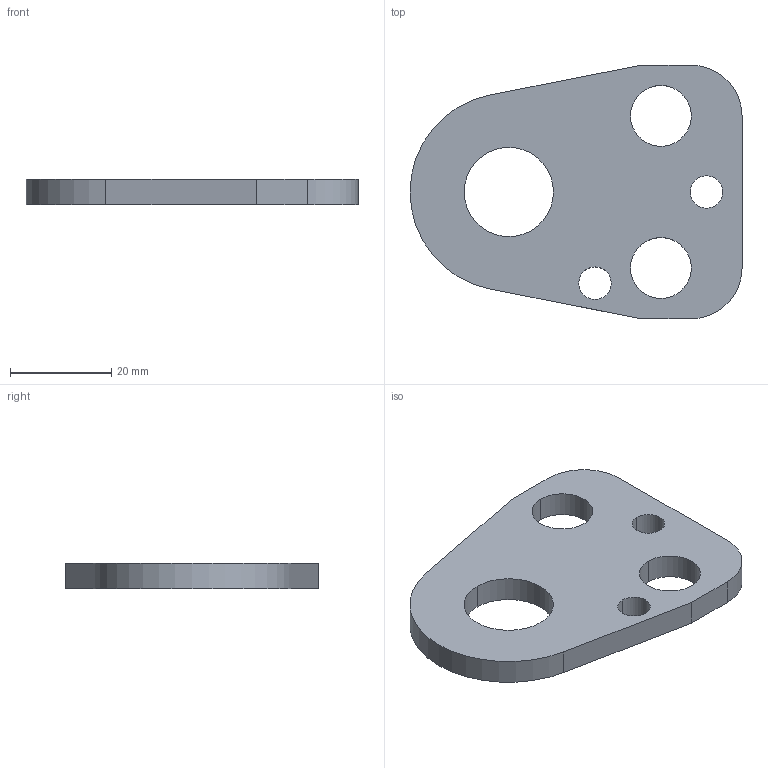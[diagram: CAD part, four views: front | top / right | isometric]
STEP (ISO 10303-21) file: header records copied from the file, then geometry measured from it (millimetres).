
FILE_DESCRIPTION(/* description */ (''),/* implementation_level */ '2;1');
FILE_NAME(/* name */ '3d_bdc25_03366_r00.stp',/* time_stamp */ '2011-01-10T14:17:24+09:00',/* author */ ('MISUMI'),/* organization */ (''),/* preprocessor_version */ 'ST-DEVELOPER v11',/* originating_system */ 'UGS - NX 5.0',/* authorisation */ '');
FILE_SCHEMA (('CONFIG_CONTROL_DESIGN'));
Length unit declared in the file: millimetre
Products named in the file (1): 3d_bdc25_03366_r00
Bounding box: 65.5 x 50 x 5 mm (x, y, z)
Volume: 10941.3 mm3; surface area: 6209.9 mm2
Topology: 1 solids, 1 shells, 20 faces, 54 edges, 36 vertices
Faces by surface type: cylinder 13, plane 7
Entity records: 750 total; most frequent: DIRECTION 122, CARTESIAN_POINT 111, ORIENTED_EDGE 108, EDGE_CURVE 54, AXIS2_PLACEMENT_3D 47, VERTEX_POINT 36, EDGE_LOOP 30, LINE 28
